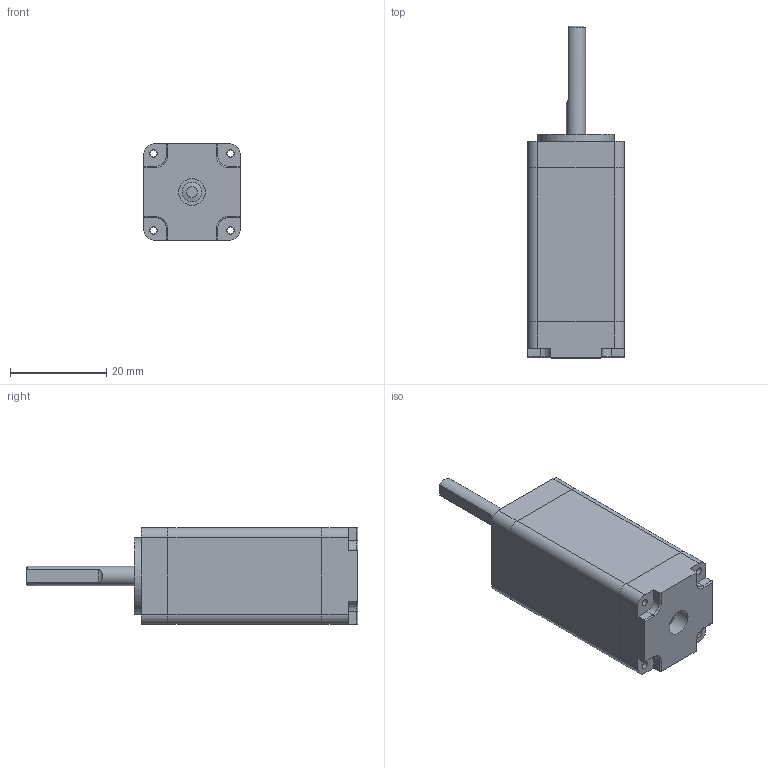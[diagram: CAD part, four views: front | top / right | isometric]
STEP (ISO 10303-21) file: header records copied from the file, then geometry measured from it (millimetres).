
FILE_DESCRIPTION( ('This file contains a STEP AP42 implementation' ,'as created by ZW3D STEP Interface translator.') ,'2;1' );
FILE_NAME( 'AM510A-20A0003-0000.stp' ,'24 724.171351', (''), ('ZWCAD Software Co.'), 'Version 1.0', 'ZW3D to STEP translator', '' );
FILE_SCHEMA(('AUTOMOTIVE_DESIGN { 1 0 10303 214 1 1 1 1 }'));
Length unit declared in the file: millimetre
Products named in the file (2): 0; 睽捶20
Bounding box: 20 x 69 x 20 mm (x, y, z)
Volume: 17472.2 mm3; surface area: 7511.9 mm2
Topology: 4 solids, 6 shells, 92 faces, 235 edges, 157 vertices
Faces by surface type: cylinder 47, plane 39, torus 4, cone 2
Full cylindrical faces by diameter (mm): 1.5 x14, 4 x2, 5.5 x1, 6.5 x2, 16 x2, 18 x1
Entity records: 3021 total; most frequent: CARTESIAN_POINT 543, DIRECTION 518, ORIENTED_EDGE 444, EDGE_CURVE 223, AXIS2_PLACEMENT_3D 197, VERTEX_POINT 145, VECTOR 124, LINE 124
